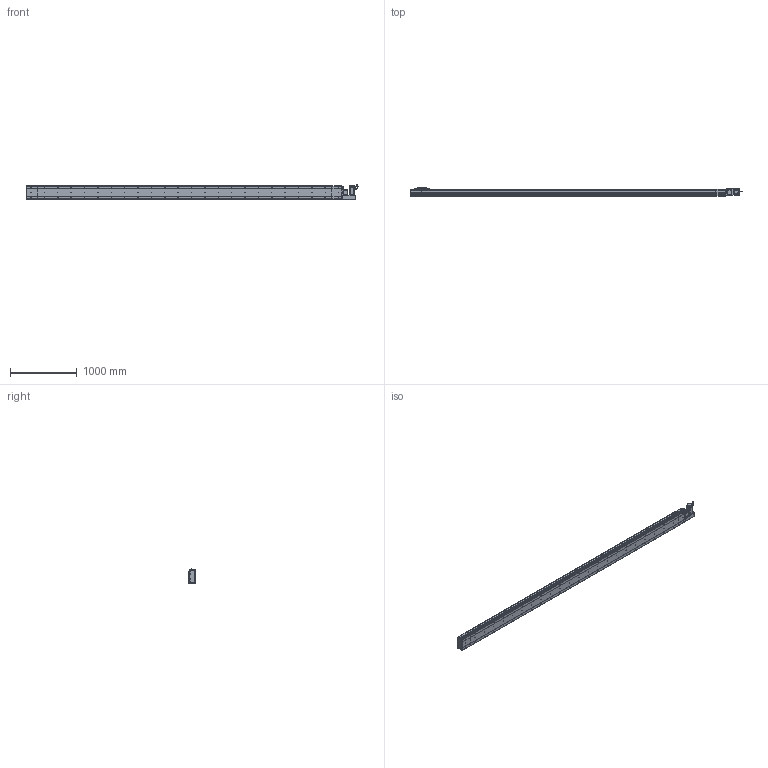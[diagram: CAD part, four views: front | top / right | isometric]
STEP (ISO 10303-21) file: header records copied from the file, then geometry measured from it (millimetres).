
FILE_DESCRIPTION (( 'STEP AP214' ), '1' );
FILE_NAME ('D20 CBH RH S4400.STEP', '2010-06-30T11:35:30', ( 'Conseil Régional Haute-Normandie' ), ( 'Conseil Régional Haute-Normandie' ), 'SwSTEP 2.0', 'SolidWorks 2010', '' );
FILE_SCHEMA (( 'AUTOMOTIVE_DESIGN' ));
Length unit declared in the file: millimetre
Products named in the file (31): Plaque de Bout Head D20 RH_Default; D20 CBH RH S4400; Head D20 RH_Default; Corp Tail D20 RH_Default; Couvercle RH_Default; Plaque De Serrage D20 RH_Default; Plaque De Serrage D20_Default; vis M5 L15_Default; Support moteur RH_Default; Conecteur_Default; Conecteur2_Default; codeur 90BLDC125-640; corps 90BLDC125A-640; avant 90BLDC125A-640; Moteur motionking 90BLDC125A-640; ecrou_Default; vis M5 L30_Default; vis M5 L47_Default; Cache Support Moteur RH_Default; Corp S4400_Default; Corp D20 S4400_Default; Couvercle S4400_Default; Support Chariot D20_Default; Glissiere_Default; Chariot D20_Default; Rondelle Cache D20 RH_Default; Tail D20_Default; Corp Tail D20_Default; Couvercle_Default; Plaque de Bout Tail D20_Default
Assembly tree (68 placements, depth 4):
  D20 CBH RH S4400
    Corp D20 S4400_Default
      Couvercle S4400_Default
      Corp S4400_Default
    Tail D20_Default
      vis M5 L15_Default  x6
      Plaque De Serrage D20_Default
      Plaque de Bout Tail D20_Default
      Corp Tail D20_Default
      Couvercle_Default
    Chariot D20_Default
      Support Chariot D20_Default
      vis M5 L15_Default  x8
      Chariot D20_Default
      Glissiere_Default
    Head D20 RH_Default
      vis M5 L15_Default  x14
      vis M5 L47_Default  x4
      Rondelle Cache D20 RH_Default  x3
      Plaque De Serrage D20 RH_Default
      Plaque de Bout Head D20 RH_Default
      Corp Tail D20 RH_Default
      vis M5 L30_Default  x4
      ecrou_Default  x4
      Support moteur RH_Default
      Cache Support Moteur RH_Default
      Moteur motionking 90BLDC125A-640
        corps 90BLDC125A-640
        Conecteur_Default
        avant 90BLDC125A-640
        Conecteur2_Default
        codeur 90BLDC125-640
      Couvercle RH_Default
Bounding box: 4965.45 x 119.5 x 229.7 mm (x, y, z)
Volume: 32086594.5 mm3; surface area: 6096820.1 mm2
Topology: 105 solids, 105 shells, 3925 faces, 9714 edges, 6310 vertices
Faces by surface type: plane 2164, bspline 806, cylinder 784, torus 95, cone 72, sphere 4
Entity records: 162302 total; most frequent: CARTESIAN_POINT 82781, ORIENTED_EDGE 15696, DIRECTION 12190, EDGE_CURVE 7848, VERTEX_POINT 5194, LINE 5008, VECTOR 5008, AXIS2_PLACEMENT_3D 3591
